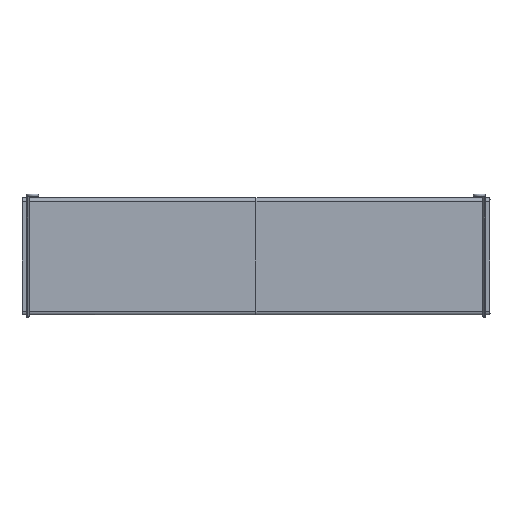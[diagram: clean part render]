
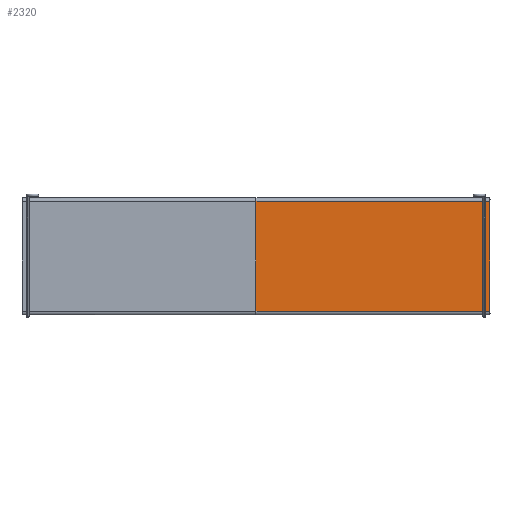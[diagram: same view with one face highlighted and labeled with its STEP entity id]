
A CAD part, top view. The second image highlights one B-rep face of the part: STEP entity #2320.
In plain terms, the highlighted planar face has unit normal (0, 0, 1).
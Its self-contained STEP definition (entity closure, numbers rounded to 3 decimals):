
#1455=B_SPLINE_CURVE_WITH_KNOTS('',1,(#46079,#46080),.UNSPECIFIED.,.F.,
 .F.,(2,2),(0.,400.),.UNSPECIFIED.);
#1478=B_SPLINE_CURVE_WITH_KNOTS('',1,(#46187,#46188),.UNSPECIFIED.,.F.,
 .F.,(2,2),(0.,188.),.UNSPECIFIED.);
#1479=B_SPLINE_CURVE_WITH_KNOTS('',1,(#46189,#46190),.UNSPECIFIED.,.F.,
 .F.,(2,2),(0.,400.),.UNSPECIFIED.);
#1480=B_SPLINE_CURVE_WITH_KNOTS('',1,(#46191,#46192),.UNSPECIFIED.,.F.,
 .F.,(2,2),(0.,188.),.UNSPECIFIED.);
#2320=ADVANCED_FACE('',(#3154),#14142,.T.);
#3154=FACE_OUTER_BOUND('',#3992,.T.);
#3992=EDGE_LOOP('',(#8609,#8610,#8611,#8612));
#8609=ORIENTED_EDGE('',*,*,#11162,.F.);
#8610=ORIENTED_EDGE('',*,*,#11197,.F.);
#8611=ORIENTED_EDGE('',*,*,#11198,.T.);
#8612=ORIENTED_EDGE('',*,*,#11199,.T.);
#11162=EDGE_CURVE('',#14039,#14043,#1455,.T.);
#11197=EDGE_CURVE('',#14066,#14039,#1478,.T.);
#11198=EDGE_CURVE('',#14066,#14067,#1479,.T.);
#11199=EDGE_CURVE('',#14067,#14043,#1480,.T.);
#14039=VERTEX_POINT('',#45985);
#14043=VERTEX_POINT('',#45989);
#14066=VERTEX_POINT('',#46012);
#14067=VERTEX_POINT('',#46013);
#14142=PLANE('',#15438);
#15438=AXIS2_PLACEMENT_3D('',#45898,#16001,$);
#16001=DIRECTION('',(0.,0.,1.));
#45898=CARTESIAN_POINT('',(59.263,-17.387,16.));
#45985=CARTESIAN_POINT('',(499.275,1.425,16.));
#45989=CARTESIAN_POINT('',(99.275,1.425,16.));
#46012=CARTESIAN_POINT('',(499.275,189.425,16.));
#46013=CARTESIAN_POINT('',(99.275,189.425,16.));
#46079=CARTESIAN_POINT('',(499.275,1.425,16.));
#46080=CARTESIAN_POINT('',(99.275,1.425,16.));
#46187=CARTESIAN_POINT('',(499.275,189.425,16.));
#46188=CARTESIAN_POINT('',(499.275,1.425,16.));
#46189=CARTESIAN_POINT('',(499.275,189.425,16.));
#46190=CARTESIAN_POINT('',(99.275,189.425,16.));
#46191=CARTESIAN_POINT('',(99.275,189.425,16.));
#46192=CARTESIAN_POINT('',(99.275,1.425,16.));
